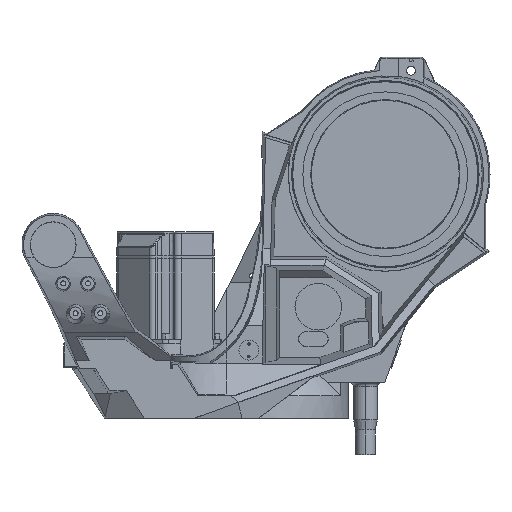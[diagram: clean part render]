
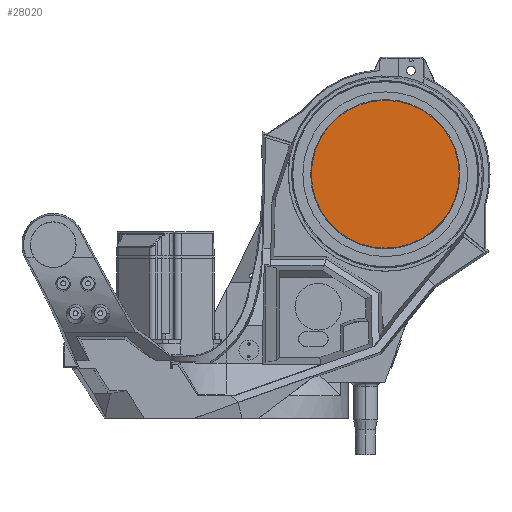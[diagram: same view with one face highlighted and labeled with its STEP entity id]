
A CAD part, front view. The second image highlights one B-rep face of the part: STEP entity #28020.
In plain terms, the highlighted planar face has unit normal (0, -1, 0).
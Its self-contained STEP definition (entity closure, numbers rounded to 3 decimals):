
#3696 = CIRCLE ( 'NONE', #22551, 149. ) ;
#4083 = EDGE_LOOP ( 'NONE', ( #21704, #33929 ) ) ;
#5107 = CARTESIAN_POINT ( 'NONE',  ( 469., -140., 780. ) ) ;
#5542 = VERTEX_POINT ( 'NONE', #39665 ) ;
#6796 = CARTESIAN_POINT ( 'NONE',  ( 320., -140., 780. ) ) ;
#7737 = AXIS2_PLACEMENT_3D ( 'NONE', #31923, #11889, #35310 ) ;
#8824 = DIRECTION ( 'NONE',  ( 0., -1., 0. ) ) ;
#9443 = AXIS2_PLACEMENT_3D ( 'NONE', #6796, #30200, #10165 ) ;
#10165 = DIRECTION ( 'NONE',  ( 1., 0., 0. ) ) ;
#11889 = DIRECTION ( 'NONE',  ( 0., 1., 0. ) ) ;
#17270 = CIRCLE ( 'NONE', #9443, 149. ) ;
#18431 = PLANE ( 'NONE',  #7737 ) ;
#21704 = ORIENTED_EDGE ( 'NONE', *, *, #29617, .T. ) ;
#22551 = AXIS2_PLACEMENT_3D ( 'NONE', #28852, #8824, #32204 ) ;
#23480 = VERTEX_POINT ( 'NONE', #5107 ) ;
#28020 = ADVANCED_FACE ( 'NONE', ( #28447 ), #18431, .F. ) ;
#28447 = FACE_OUTER_BOUND ( 'NONE', #4083, .T. ) ;
#28852 = CARTESIAN_POINT ( 'NONE',  ( 320., -140., 780. ) ) ;
#29617 = EDGE_CURVE ( 'NONE', #23480, #5542, #17270, .T. ) ;
#30200 = DIRECTION ( 'NONE',  ( 0., -1., 0. ) ) ;
#31923 = CARTESIAN_POINT ( 'NONE',  ( 320., -140., 929. ) ) ;
#32204 = DIRECTION ( 'NONE',  ( 1., 0., 0. ) ) ;
#33929 = ORIENTED_EDGE ( 'NONE', *, *, #39063, .T. ) ;
#35310 = DIRECTION ( 'NONE',  ( -1., 0., 0. ) ) ;
#39063 = EDGE_CURVE ( 'NONE', #5542, #23480, #3696, .T. ) ;
#39665 = CARTESIAN_POINT ( 'NONE',  ( 171., -140., 780. ) ) ;
